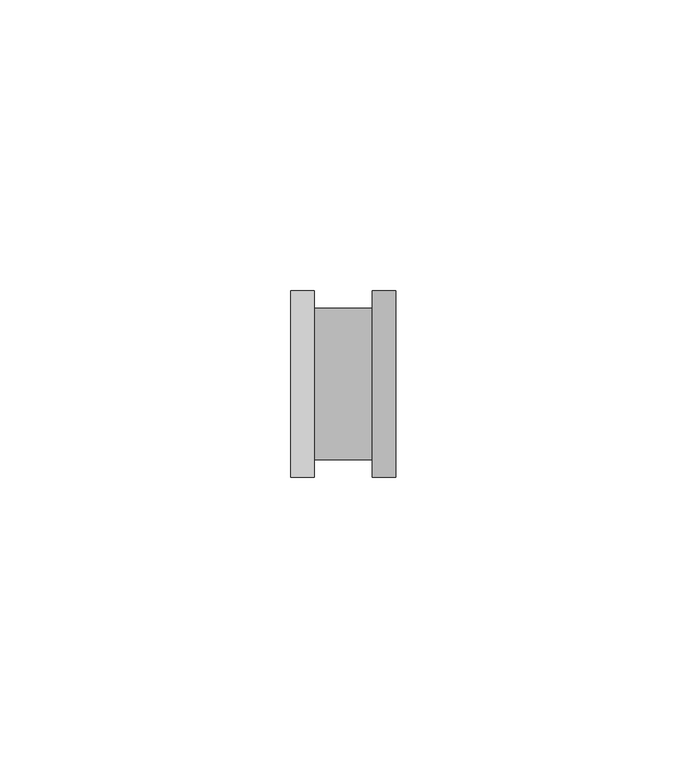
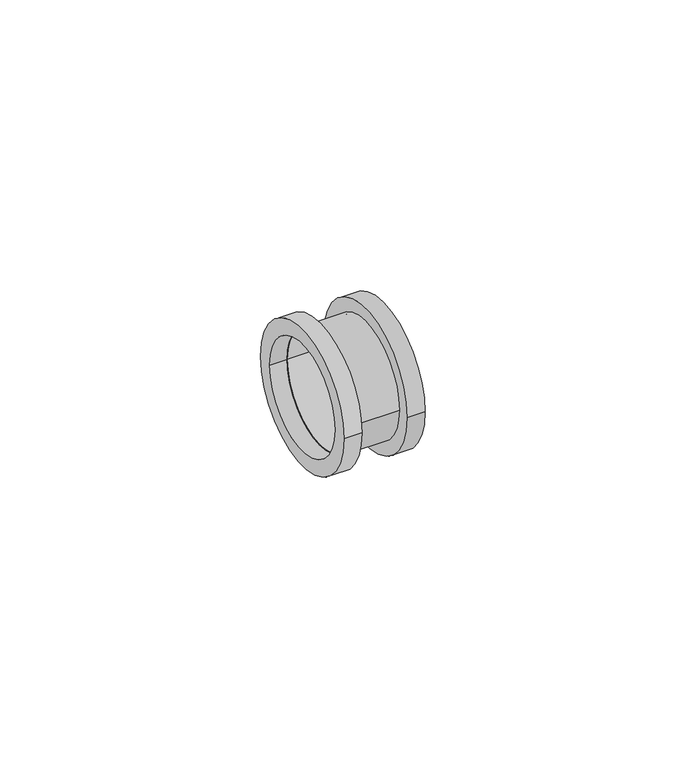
"""IFC4 building model written with IfcOpenShell, lengths in millimetres: pipe fitting geometry, БИР ПЕКС_НПР_Соединитель_Резьба_Внутренняя : Соединитель прямой с внутренней резьбой."""

from ifc_helpers import new_model, si_unit, point, frame, origin, origin_2d, place, context, project, spatial, circle_curve, trimmed, segment, composite_curve, outline, extrude, source, transform, mapped, element, save


def pipe_fitting_0a206f5e(model_context):
    return source(origin(), model_context, "Body", "SweptSolid", [
        extrude(outline(composite_curve([segment(trimmed(circle_curve(origin_2d(), 13.0), [point((-13.0, 0.0))], [point((13.0, 0.0))], False, "CARTESIAN"), True, "CONTINUOUS"), segment(trimmed(circle_curve(origin_2d(), 13.0), [point((13.0, 0.0))], [point((-13.0, 0.0))], False, "CARTESIAN"), True, "CONTINUOUS")], self_intersect=False), holes=[composite_curve([segment(trimmed(circle_curve(origin_2d(), 12.5), [point((-12.5, 0.0))], [point((12.5, 0.0))], True, "CARTESIAN"), True, "CONTINUOUS"), segment(trimmed(circle_curve(origin_2d(), 12.5), [point((12.5, 0.0))], [point((-12.5, 0.0))], True, "CARTESIAN"), True, "CONTINUOUS")], self_intersect=False)]), frame((-5.0, 0.0, 0.0), z_axis=(1.0, 0.0, 0.0), x_axis=(0.0, 1.0, 0.0)), (0.0, 0.0, 1.0), 10.0),
        extrude(outline(composite_curve([segment(trimmed(circle_curve(origin_2d(), 16.0), [point((-16.0, 0.0))], [point((16.0, 0.0))], False, "CARTESIAN"), True, "CONTINUOUS"), segment(trimmed(circle_curve(origin_2d(), 16.0), [point((16.0, 0.0))], [point((-16.0, 0.0))], False, "CARTESIAN"), True, "CONTINUOUS")], self_intersect=False), holes=[composite_curve([segment(trimmed(circle_curve(origin_2d(), 12.5), [point((-12.5, 0.0))], [point((12.5, 0.0))], True, "CARTESIAN"), True, "CONTINUOUS"), segment(trimmed(circle_curve(origin_2d(), 12.5), [point((12.5, 0.0))], [point((-12.5, 0.0))], True, "CARTESIAN"), True, "CONTINUOUS")], self_intersect=False)]), frame((5.0, 0.0, 0.0), z_axis=(1.0, 0.0, 0.0), x_axis=(0.0, 1.0, 0.0)), (0.0, 0.0, 1.0), 4.0),
        extrude(outline(composite_curve([segment(trimmed(circle_curve(origin_2d(), 16.0), [point((-16.0, 0.0))], [point((16.0, 0.0))], False, "CARTESIAN"), True, "CONTINUOUS"), segment(trimmed(circle_curve(origin_2d(), 16.0), [point((16.0, 0.0))], [point((-16.0, 0.0))], False, "CARTESIAN"), True, "CONTINUOUS")], self_intersect=False), holes=[composite_curve([segment(trimmed(circle_curve(origin_2d(), 12.5), [point((-12.5, 0.0))], [point((12.5, 0.0))], True, "CARTESIAN"), True, "CONTINUOUS"), segment(trimmed(circle_curve(origin_2d(), 12.5), [point((12.5, 0.0))], [point((-12.5, 0.0))], True, "CARTESIAN"), True, "CONTINUOUS")], self_intersect=False)]), frame((-9.0, 0.0, 0.0), z_axis=(1.0, 0.0, 0.0), x_axis=(0.0, 1.0, 0.0)), (0.0, 0.0, 1.0), 4.0),
    ])


if __name__ == "__main__":
    model = new_model("IFC4")
    model_context = context("Model", 3, world=origin())
    ifc_project = project(units=[si_unit("LENGTHUNIT", "METRE", prefix="MILLI")], contexts=[model_context])
    site = spatial("IfcSite", under=ifc_project)
    building = spatial("IfcBuilding", under=site)
    placement = place(None, origin())
    pipe_fitting_shape = pipe_fitting_0a206f5e(model_context)
    element("IfcPipeFitting", 1, ObjectType="БИР ПЕКС_НПР_Соединитель_Резьба_Внутренняя : Соединитель прямой с внутренней резьбой", at=placement, inside=building, context=model_context, shape_type="MappedRepresentation", body=[
        mapped(pipe_fitting_shape, transform((0.0, 0.0, 0.0), x_axis=(1.0, 0.0, 0.0), y_axis=(0.0, 1.0, 0.0), z_axis=(0.0, 0.0, 1.0))),
    ])
    save(model, "model.ifc")
